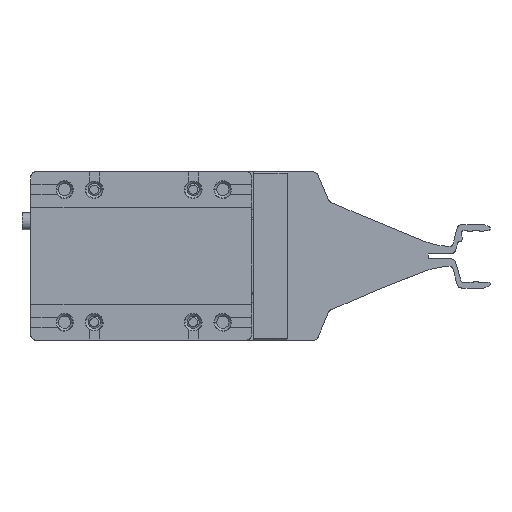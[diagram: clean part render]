
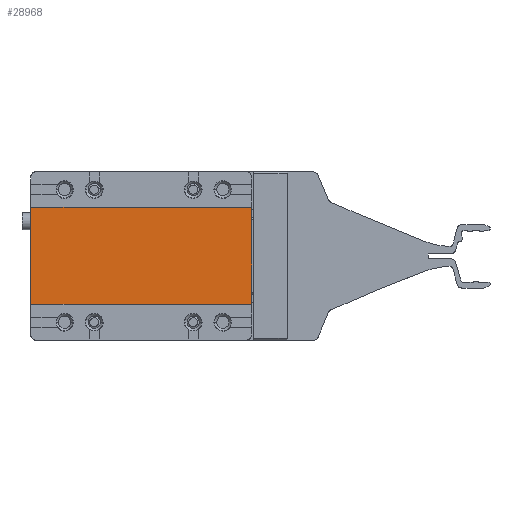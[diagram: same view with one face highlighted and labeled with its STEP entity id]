
A CAD part, top view. The second image highlights one B-rep face of the part: STEP entity #28968.
In plain terms, the highlighted planar face has unit normal (0, 0, 1).
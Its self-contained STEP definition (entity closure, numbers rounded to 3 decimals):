
#1068 = CARTESIAN_POINT ( 'NONE',  ( 2.839, 21.772, 35.356 ) ) ;
#1896 = CARTESIAN_POINT ( 'NONE',  ( 25.039, 21.772, 35.356 ) ) ;
#3717 = FACE_OUTER_BOUND ( 'NONE', #20916, .T. ) ;
#4723 = ORIENTED_EDGE ( 'NONE', *, *, #9572, .T. ) ;
#4885 = DIRECTION ( 'NONE',  ( 1., 0., 0. ) ) ;
#6461 = VERTEX_POINT ( 'NONE', #21671 ) ;
#6913 = VECTOR ( 'NONE', #30911, 1000. ) ;
#7365 = DIRECTION ( 'NONE',  ( 1., 0., 0. ) ) ;
#9572 = EDGE_CURVE ( 'NONE', #6461, #27369, #20569, .T. ) ;
#11137 = CARTESIAN_POINT ( 'NONE',  ( 25.039, 31.572, 35.356 ) ) ;
#13395 = VECTOR ( 'NONE', #4885, 1000. ) ;
#13495 = CARTESIAN_POINT ( 'NONE',  ( 2.739, 31.572, 35.356 ) ) ;
#13541 = PLANE ( 'NONE',  #14574 ) ;
#14574 = AXIS2_PLACEMENT_3D ( 'NONE', #35613, #26211, #7365 ) ;
#17547 = DIRECTION ( 'NONE',  ( 0., 1., 0. ) ) ;
#17623 = ORIENTED_EDGE ( 'NONE', *, *, #20636, .T. ) ;
#20569 = LINE ( 'NONE', #1068, #13395 ) ;
#20636 = EDGE_CURVE ( 'NONE', #26495, #29380, #25416, .T. ) ;
#20916 = EDGE_LOOP ( 'NONE', ( #38224, #4723, #24446, #17623 ) ) ;
#21479 = DIRECTION ( 'NONE',  ( -1., 0., 0. ) ) ;
#21671 = CARTESIAN_POINT ( 'NONE',  ( 2.739, 21.772, 35.356 ) ) ;
#24446 = ORIENTED_EDGE ( 'NONE', *, *, #30070, .T. ) ;
#24801 = CARTESIAN_POINT ( 'NONE',  ( 2.839, 31.572, 35.356 ) ) ;
#25416 = LINE ( 'NONE', #24801, #36064 ) ;
#26211 = DIRECTION ( 'NONE',  ( 0., 0., 1. ) ) ;
#26495 = VERTEX_POINT ( 'NONE', #29064 ) ;
#27369 = VERTEX_POINT ( 'NONE', #1896 ) ;
#28968 = ADVANCED_FACE ( 'NONE', ( #3717 ), #13541, .T. ) ;
#29064 = CARTESIAN_POINT ( 'NONE',  ( 25.039, 31.572, 35.356 ) ) ;
#29380 = VERTEX_POINT ( 'NONE', #13495 ) ;
#30070 = EDGE_CURVE ( 'NONE', #27369, #26495, #39391, .T. ) ;
#30477 = VECTOR ( 'NONE', #17547, 1000. ) ;
#30911 = DIRECTION ( 'NONE',  ( 0., -1., 0. ) ) ;
#31476 = EDGE_CURVE ( 'NONE', #29380, #6461, #40354, .T. ) ;
#35613 = CARTESIAN_POINT ( 'NONE',  ( 13.839, 26.672, 35.356 ) ) ;
#36064 = VECTOR ( 'NONE', #21479, 1000. ) ;
#37665 = CARTESIAN_POINT ( 'NONE',  ( 2.739, 31.572, 35.356 ) ) ;
#38224 = ORIENTED_EDGE ( 'NONE', *, *, #31476, .T. ) ;
#39391 = LINE ( 'NONE', #11137, #30477 ) ;
#40354 = LINE ( 'NONE', #37665, #6913 ) ;
